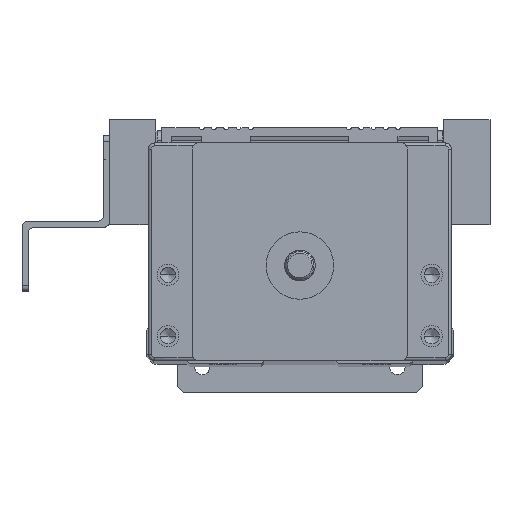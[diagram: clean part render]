
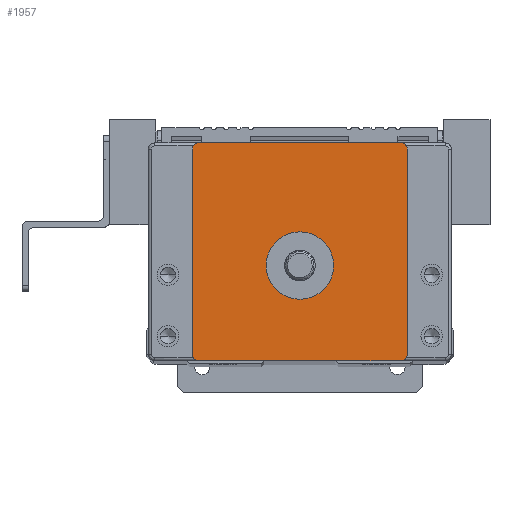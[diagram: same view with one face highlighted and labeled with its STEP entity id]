
A CAD part, top view. The second image highlights one B-rep face of the part: STEP entity #1957.
In plain terms, the highlighted planar face has unit normal (0, 0, 1).
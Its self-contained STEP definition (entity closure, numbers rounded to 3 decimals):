
#822 = CARTESIAN_POINT ( 'NONE',  ( 16.5, 17.75, 10. ) ) ;
#1337 = VECTOR ( 'NONE', #29902, 1000. ) ;
#1383 = DIRECTION ( 'NONE',  ( -1., 0., 0. ) ) ;
#1499 = AXIS2_PLACEMENT_3D ( 'NONE', #7316, #24719, #9891 ) ;
#1957 = ADVANCED_FACE ( 'NONE', ( #24622, #11440 ), #12438, .T. ) ;
#1991 = CIRCLE ( 'NONE', #23950, 1. ) ;
#2768 = CARTESIAN_POINT ( 'NONE',  ( -16.5, -17.75, 10. ) ) ;
#2956 = VECTOR ( 'NONE', #9840, 1000. ) ;
#3466 = DIRECTION ( 'NONE',  ( 0., 0., -1. ) ) ;
#4386 = CARTESIAN_POINT ( 'NONE',  ( 16.5, -17.75, 10. ) ) ;
#6150 = DIRECTION ( 'NONE',  ( 0., 0., 1. ) ) ;
#6255 = ORIENTED_EDGE ( 'NONE', *, *, #20172, .T. ) ;
#6823 = CIRCLE ( 'NONE', #7222, 1. ) ;
#7222 = AXIS2_PLACEMENT_3D ( 'NONE', #14425, #31780, #16924 ) ;
#7267 = CARTESIAN_POINT ( 'NONE',  ( 24.7, -17.75, 10. ) ) ;
#7316 = CARTESIAN_POINT ( 'NONE',  ( -16.5, -16.75, 10. ) ) ;
#7452 = CARTESIAN_POINT ( 'NONE',  ( -5.5, -2.25, 10. ) ) ;
#7459 = EDGE_CURVE ( 'NONE', #28693, #18728, #26407, .T. ) ;
#7672 = CIRCLE ( 'NONE', #1499, 1. ) ;
#7721 = CARTESIAN_POINT ( 'NONE',  ( -16.5, 17.75, 10. ) ) ;
#8008 = ORIENTED_EDGE ( 'NONE', *, *, #10523, .T. ) ;
#8062 = EDGE_CURVE ( 'NONE', #31733, #31695, #16303, .T. ) ;
#8308 = EDGE_CURVE ( 'NONE', #31695, #31733, #15130, .T. ) ;
#8818 = VECTOR ( 'NONE', #13169, 1000. ) ;
#8946 = CARTESIAN_POINT ( 'NONE',  ( -16.5, 16.75, 10. ) ) ;
#8952 = VERTEX_POINT ( 'NONE', #822 ) ;
#9688 = LINE ( 'NONE', #7267, #2956 ) ;
#9840 = DIRECTION ( 'NONE',  ( 1., 0., 0. ) ) ;
#9891 = DIRECTION ( 'NONE',  ( -1., 0., 0. ) ) ;
#10235 = ORIENTED_EDGE ( 'NONE', *, *, #7459, .T. ) ;
#10523 = EDGE_CURVE ( 'NONE', #24085, #18603, #21579, .T. ) ;
#10674 = CARTESIAN_POINT ( 'NONE',  ( 17.5, 0., 10. ) ) ;
#11409 = AXIS2_PLACEMENT_3D ( 'NONE', #21082, #6150, #23568 ) ;
#11440 = FACE_OUTER_BOUND ( 'NONE', #22781, .T. ) ;
#11472 = DIRECTION ( 'NONE',  ( -1., 0., 0. ) ) ;
#11839 = AXIS2_PLACEMENT_3D ( 'NONE', #31256, #16367, #1383 ) ;
#11984 = CARTESIAN_POINT ( 'NONE',  ( 5.5, -2.25, 10. ) ) ;
#12438 = PLANE ( 'NONE',  #15441 ) ;
#12479 = ORIENTED_EDGE ( 'NONE', *, *, #29911, .T. ) ;
#12621 = DIRECTION ( 'NONE',  ( 0., -1., 0. ) ) ;
#13169 = DIRECTION ( 'NONE',  ( 0., 1., 0. ) ) ;
#13294 = CARTESIAN_POINT ( 'NONE',  ( 17.5, 16.75, 10. ) ) ;
#14085 = VERTEX_POINT ( 'NONE', #13294 ) ;
#14331 = ORIENTED_EDGE ( 'NONE', *, *, #8062, .T. ) ;
#14425 = CARTESIAN_POINT ( 'NONE',  ( 16.5, 16.75, 10. ) ) ;
#14796 = CARTESIAN_POINT ( 'NONE',  ( 0., 0., 10. ) ) ;
#14815 = CARTESIAN_POINT ( 'NONE',  ( -17.5, -16.75, 10. ) ) ;
#14916 = ORIENTED_EDGE ( 'NONE', *, *, #23120, .T. ) ;
#15005 = VECTOR ( 'NONE', #12621, 1000. ) ;
#15130 = CIRCLE ( 'NONE', #26163, 5.5 ) ;
#15441 = AXIS2_PLACEMENT_3D ( 'NONE', #14796, #32271, #17404 ) ;
#16021 = EDGE_CURVE ( 'NONE', #18603, #18736, #7672, .T. ) ;
#16303 = CIRCLE ( 'NONE', #11839, 5.5 ) ;
#16367 = DIRECTION ( 'NONE',  ( 0., 0., -1. ) ) ;
#16924 = DIRECTION ( 'NONE',  ( -1., 0., 0. ) ) ;
#17404 = DIRECTION ( 'NONE',  ( 1., 0., 0. ) ) ;
#17899 = EDGE_CURVE ( 'NONE', #14085, #8952, #6823, .T. ) ;
#18419 = CARTESIAN_POINT ( 'NONE',  ( 0., -2.25, 10. ) ) ;
#18603 = VERTEX_POINT ( 'NONE', #14815 ) ;
#18728 = VERTEX_POINT ( 'NONE', #27718 ) ;
#18736 = VERTEX_POINT ( 'NONE', #2768 ) ;
#18815 = ORIENTED_EDGE ( 'NONE', *, *, #16021, .T. ) ;
#20172 = EDGE_CURVE ( 'NONE', #24691, #24085, #1991, .T. ) ;
#20907 = DIRECTION ( 'NONE',  ( -1., 0., 0. ) ) ;
#21082 = CARTESIAN_POINT ( 'NONE',  ( 16.5, -16.75, 10. ) ) ;
#21249 = LINE ( 'NONE', #22507, #1337 ) ;
#21579 = LINE ( 'NONE', #24940, #15005 ) ;
#22016 = LINE ( 'NONE', #10674, #8818 ) ;
#22507 = CARTESIAN_POINT ( 'NONE',  ( 24.7, 17.75, 10. ) ) ;
#22781 = EDGE_LOOP ( 'NONE', ( #14916, #6255, #8008, #18815, #12479, #10235, #29823, #24578 ) ) ;
#23120 = EDGE_CURVE ( 'NONE', #8952, #24691, #21249, .T. ) ;
#23568 = DIRECTION ( 'NONE',  ( -1., 0., 0. ) ) ;
#23950 = AXIS2_PLACEMENT_3D ( 'NONE', #8946, #26292, #11472 ) ;
#24085 = VERTEX_POINT ( 'NONE', #25363 ) ;
#24578 = ORIENTED_EDGE ( 'NONE', *, *, #17899, .T. ) ;
#24622 = FACE_BOUND ( 'NONE', #30194, .T. ) ;
#24691 = VERTEX_POINT ( 'NONE', #7721 ) ;
#24719 = DIRECTION ( 'NONE',  ( 0., 0., 1. ) ) ;
#24940 = CARTESIAN_POINT ( 'NONE',  ( -17.5, 0., 10. ) ) ;
#25363 = CARTESIAN_POINT ( 'NONE',  ( -17.5, 16.75, 10. ) ) ;
#26163 = AXIS2_PLACEMENT_3D ( 'NONE', #18419, #3466, #20907 ) ;
#26292 = DIRECTION ( 'NONE',  ( 0., 0., 1. ) ) ;
#26407 = CIRCLE ( 'NONE', #11409, 1. ) ;
#27718 = CARTESIAN_POINT ( 'NONE',  ( 17.5, -16.75, 10. ) ) ;
#28693 = VERTEX_POINT ( 'NONE', #4386 ) ;
#29823 = ORIENTED_EDGE ( 'NONE', *, *, #31463, .T. ) ;
#29902 = DIRECTION ( 'NONE',  ( -1., 0., 0. ) ) ;
#29911 = EDGE_CURVE ( 'NONE', #18736, #28693, #9688, .T. ) ;
#30194 = EDGE_LOOP ( 'NONE', ( #14331, #30414 ) ) ;
#30414 = ORIENTED_EDGE ( 'NONE', *, *, #8308, .T. ) ;
#31256 = CARTESIAN_POINT ( 'NONE',  ( 0., -2.25, 10. ) ) ;
#31463 = EDGE_CURVE ( 'NONE', #18728, #14085, #22016, .T. ) ;
#31695 = VERTEX_POINT ( 'NONE', #11984 ) ;
#31733 = VERTEX_POINT ( 'NONE', #7452 ) ;
#31780 = DIRECTION ( 'NONE',  ( 0., 0., 1. ) ) ;
#32271 = DIRECTION ( 'NONE',  ( 0., 0., 1. ) ) ;
